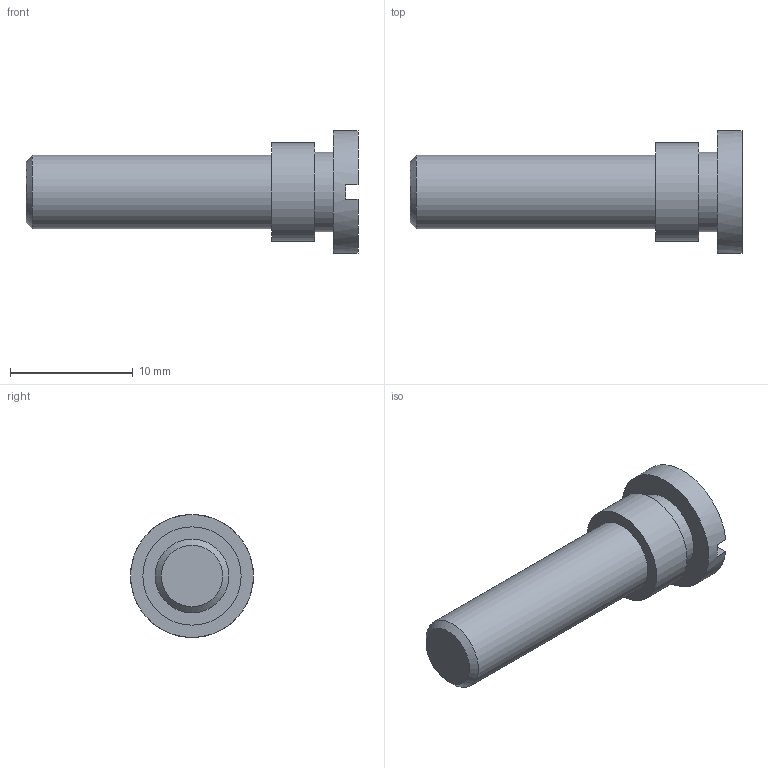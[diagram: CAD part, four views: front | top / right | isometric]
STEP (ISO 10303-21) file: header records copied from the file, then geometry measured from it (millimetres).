
FILE_DESCRIPTION(/* description */ ('Pressure Roller Screw'),/* implementation_level */ '2;1');
FILE_NAME(/* name */ 'Z:\Werkstatt Server\Projekte\Atlas\Entwicklung u. Konstruktion\Konstruktion\CAD Daten\ITkPixToolV2.0\Stencil Tool\ITPTv2.03.00.09.stp',/* time_stamp */ '2021-08-06T14:11:06+02:00',/* author */ ('Tim Kanngießer'),/* organization */ (''),/* preprocessor_version */ 'ST-DEVELOPER v18.1',/* originating_system */ 'Autodesk Inventor 2022',/* authorisation */ '');
FILE_SCHEMA (('AUTOMOTIVE_DESIGN { 1 0 10303 214 3 1 1 }'));
Length unit declared in the file: millimetre
Products named in the file (1): ITPTv2.03.00.09
Bounding box: 27 x 10 x 10 mm (x, y, z)
Volume: 934.1 mm3; surface area: 761.3 mm2
Topology: 1 solids, 1 shells, 14 faces, 27 edges, 18 vertices
Faces by surface type: plane 9, cylinder 4, cone 1
Full cylindrical faces by diameter (mm): 6 x1, 6.5 x1, 8 x1, 10 x1
Entity records: 406 total; most frequent: DIRECTION 71, CARTESIAN_POINT 60, ORIENTED_EDGE 54, AXIS2_PLACEMENT_3D 29, EDGE_CURVE 27, VERTEX_POINT 18, EDGE_LOOP 17, FACE_OUTER_BOUND 14
